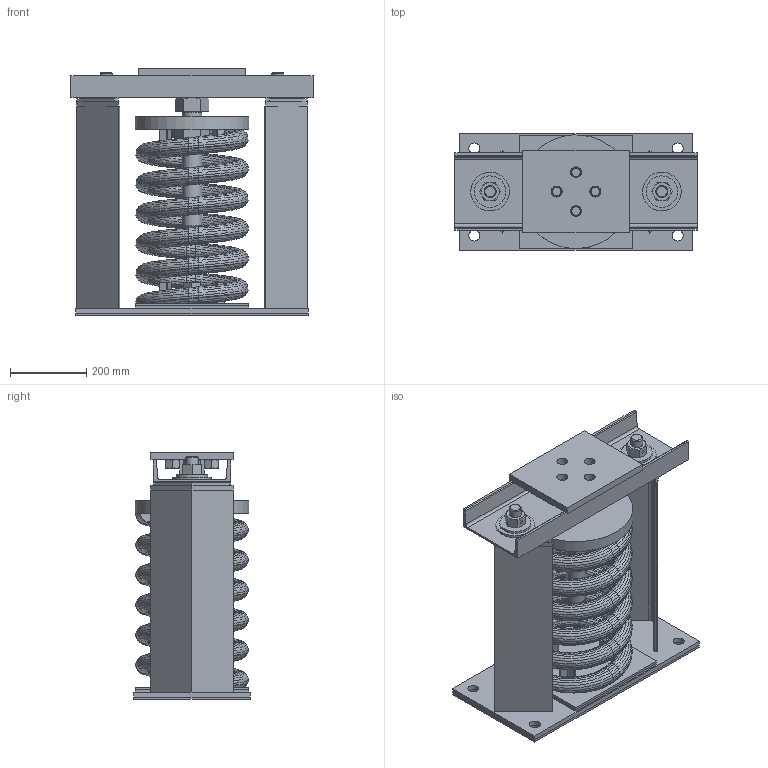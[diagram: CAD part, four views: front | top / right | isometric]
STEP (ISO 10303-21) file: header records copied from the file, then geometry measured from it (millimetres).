
FILE_DESCRIPTION(/* description */ (''),/* implementation_level */ '2;1');
FILE_NAME(/* name */ '\\MNYDS03\MasonSales\Users\MLeuck\CAD-PROE_SOLIDS\WEBSITE FILES 05.22.13\STEP\SLR 100 SERIES\SLR-196.stp',/* time_stamp */ '2020-04-24T17:33:49-04:00',/* author */ ('Raj Ramoutar'),/* organization */ (''),/* preprocessor_version */ 'ST-DEVELOPER v17.2',/* originating_system */ 'Autodesk Inventor 2019',/* authorisation */ '');
FILE_SCHEMA (('AUTOMOTIVE_DESIGN { 1 0 10303 214 3 1 1 }'));
Products named in the file (1): SLR-196 PER A-31310-3_Shrinkwrap_1
Bounding box: 635 x 304.8 x 647.7 mm (x, y, z)
Volume: 14879445.2 mm3; surface area: 3239158.2 mm2
Topology: 1 solids, 3 shells, 1000 faces, 2234 edges, 1266 vertices
Faces by surface type: bspline 532, plane 276, cone 118, cylinder 71, torus 3
Full cylindrical faces by diameter (mm): 9.525 x2, 12.7 x1, 21.971 x4, 28.575 x12, 31.75 x4, 32.436 x2, 33.337 x2, 47.625 x2, 50.8 x4, 53.975 x1, 57.15 x2, 82.55 x2, 101.6 x2, 298.45 x1
Entity records: 49607 total; most frequent: CARTESIAN_POINT 30763, ORIENTED_EDGE 4466, EDGE_CURVE 2233, DIRECTION 2217, VERTEX_POINT 1266, B_SPLINE_CURVE_WITH_KNOTS 1076, EDGE_LOOP 1059, STYLED_ITEM 1001
